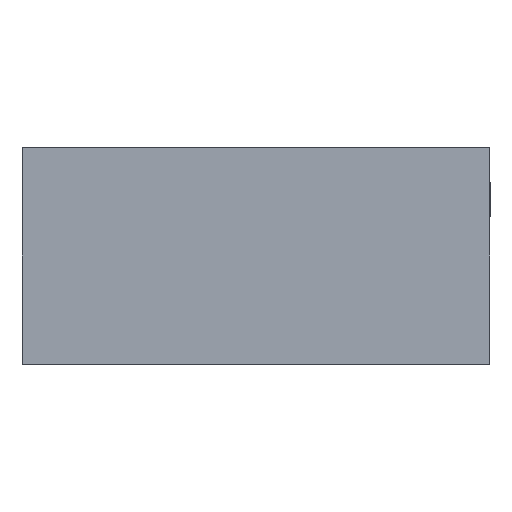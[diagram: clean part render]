
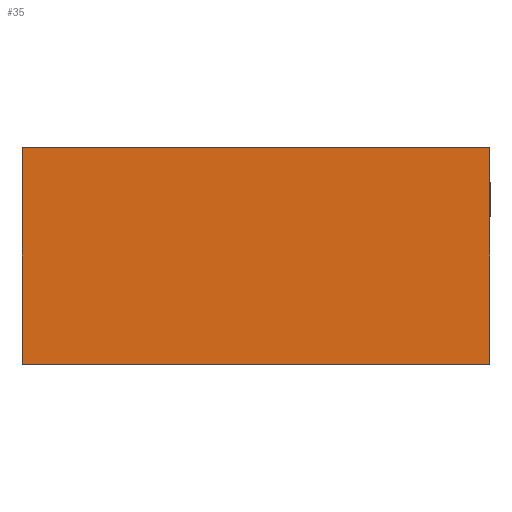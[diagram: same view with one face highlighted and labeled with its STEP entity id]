
A CAD part, left-side view. The second image highlights one B-rep face of the part: STEP entity #35.
In plain terms, the highlighted planar face has unit normal (-1, 0, 0).
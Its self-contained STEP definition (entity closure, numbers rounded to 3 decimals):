
#35 = ADVANCED_FACE('',(#36),#50,.F.);
#36 = FACE_BOUND('',#37,.F.);
#37 = EDGE_LOOP('',(#38,#73,#101,#129));
#38 = ORIENTED_EDGE('',*,*,#39,.F.);
#39 = EDGE_CURVE('',#40,#42,#44,.T.);
#40 = VERTEX_POINT('',#41);
#41 = CARTESIAN_POINT('',(139.,179.2,3.7));
#42 = VERTEX_POINT('',#43);
#43 = CARTESIAN_POINT('',(139.,179.2,13.2));
#44 = SURFACE_CURVE('',#45,(#49,#61),.PCURVE_S1.);
#45 = LINE('',#46,#47);
#46 = CARTESIAN_POINT('',(139.,179.2,3.7));
#47 = VECTOR('',#48,1.);
#48 = DIRECTION('',(0.,0.,1.));
#49 = PCURVE('',#50,#55);
#50 = PLANE('',#51);
#51 = AXIS2_PLACEMENT_3D('',#52,#53,#54);
#52 = CARTESIAN_POINT('',(139.,179.2,3.7));
#53 = DIRECTION('',(1.,0.,-0.));
#54 = DIRECTION('',(0.,0.,1.));
#55 = DEFINITIONAL_REPRESENTATION('',(#56),#60);
#56 = LINE('',#57,#58);
#57 = CARTESIAN_POINT('',(0.,0.));
#58 = VECTOR('',#59,1.);
#59 = DIRECTION('',(1.,0.));
#60 = ( GEOMETRIC_REPRESENTATION_CONTEXT(2) 
PARAMETRIC_REPRESENTATION_CONTEXT() REPRESENTATION_CONTEXT('2D SPACE',''
  ) );
#61 = PCURVE('',#62,#67);
#62 = PLANE('',#63);
#63 = AXIS2_PLACEMENT_3D('',#64,#65,#66);
#64 = CARTESIAN_POINT('',(139.,179.2,3.7));
#65 = DIRECTION('',(-0.,1.,0.));
#66 = DIRECTION('',(0.,0.,1.));
#67 = DEFINITIONAL_REPRESENTATION('',(#68),#72);
#68 = LINE('',#69,#70);
#69 = CARTESIAN_POINT('',(0.,0.));
#70 = VECTOR('',#71,1.);
#71 = DIRECTION('',(1.,0.));
#72 = ( GEOMETRIC_REPRESENTATION_CONTEXT(2) 
PARAMETRIC_REPRESENTATION_CONTEXT() REPRESENTATION_CONTEXT('2D SPACE',''
  ) );
#73 = ORIENTED_EDGE('',*,*,#74,.T.);
#74 = EDGE_CURVE('',#40,#75,#77,.T.);
#75 = VERTEX_POINT('',#76);
#76 = CARTESIAN_POINT('',(139.,183.6,3.7));
#77 = SURFACE_CURVE('',#78,(#82,#89),.PCURVE_S1.);
#78 = LINE('',#79,#80);
#79 = CARTESIAN_POINT('',(139.,179.2,3.7));
#80 = VECTOR('',#81,1.);
#81 = DIRECTION('',(-0.,1.,0.));
#82 = PCURVE('',#50,#83);
#83 = DEFINITIONAL_REPRESENTATION('',(#84),#88);
#84 = LINE('',#85,#86);
#85 = CARTESIAN_POINT('',(0.,0.));
#86 = VECTOR('',#87,1.);
#87 = DIRECTION('',(0.,-1.));
#88 = ( GEOMETRIC_REPRESENTATION_CONTEXT(2) 
PARAMETRIC_REPRESENTATION_CONTEXT() REPRESENTATION_CONTEXT('2D SPACE',''
  ) );
#89 = PCURVE('',#90,#95);
#90 = PLANE('',#91);
#91 = AXIS2_PLACEMENT_3D('',#92,#93,#94);
#92 = CARTESIAN_POINT('',(139.,179.2,3.7));
#93 = DIRECTION('',(0.,0.,1.));
#94 = DIRECTION('',(1.,0.,-0.));
#95 = DEFINITIONAL_REPRESENTATION('',(#96),#100);
#96 = LINE('',#97,#98);
#97 = CARTESIAN_POINT('',(0.,0.));
#98 = VECTOR('',#99,1.);
#99 = DIRECTION('',(0.,1.));
#100 = ( GEOMETRIC_REPRESENTATION_CONTEXT(2) 
PARAMETRIC_REPRESENTATION_CONTEXT() REPRESENTATION_CONTEXT('2D SPACE',''
  ) );
#101 = ORIENTED_EDGE('',*,*,#102,.T.);
#102 = EDGE_CURVE('',#75,#103,#105,.T.);
#103 = VERTEX_POINT('',#104);
#104 = CARTESIAN_POINT('',(139.,183.6,13.2));
#105 = SURFACE_CURVE('',#106,(#110,#117),.PCURVE_S1.);
#106 = LINE('',#107,#108);
#107 = CARTESIAN_POINT('',(139.,183.6,3.7));
#108 = VECTOR('',#109,1.);
#109 = DIRECTION('',(0.,0.,1.));
#110 = PCURVE('',#50,#111);
#111 = DEFINITIONAL_REPRESENTATION('',(#112),#116);
#112 = LINE('',#113,#114);
#113 = CARTESIAN_POINT('',(0.,-4.4));
#114 = VECTOR('',#115,1.);
#115 = DIRECTION('',(1.,0.));
#116 = ( GEOMETRIC_REPRESENTATION_CONTEXT(2) 
PARAMETRIC_REPRESENTATION_CONTEXT() REPRESENTATION_CONTEXT('2D SPACE',''
  ) );
#117 = PCURVE('',#118,#123);
#118 = PLANE('',#119);
#119 = AXIS2_PLACEMENT_3D('',#120,#121,#122);
#120 = CARTESIAN_POINT('',(139.,183.6,3.7));
#121 = DIRECTION('',(-0.,1.,0.));
#122 = DIRECTION('',(0.,0.,1.));
#123 = DEFINITIONAL_REPRESENTATION('',(#124),#128);
#124 = LINE('',#125,#126);
#125 = CARTESIAN_POINT('',(0.,0.));
#126 = VECTOR('',#127,1.);
#127 = DIRECTION('',(1.,0.));
#128 = ( GEOMETRIC_REPRESENTATION_CONTEXT(2) 
PARAMETRIC_REPRESENTATION_CONTEXT() REPRESENTATION_CONTEXT('2D SPACE',''
  ) );
#129 = ORIENTED_EDGE('',*,*,#130,.F.);
#130 = EDGE_CURVE('',#42,#103,#131,.T.);
#131 = SURFACE_CURVE('',#132,(#136,#143),.PCURVE_S1.);
#132 = LINE('',#133,#134);
#133 = CARTESIAN_POINT('',(139.,179.2,13.2));
#134 = VECTOR('',#135,1.);
#135 = DIRECTION('',(-0.,1.,0.));
#136 = PCURVE('',#50,#137);
#137 = DEFINITIONAL_REPRESENTATION('',(#138),#142);
#138 = LINE('',#139,#140);
#139 = CARTESIAN_POINT('',(9.5,0.));
#140 = VECTOR('',#141,1.);
#141 = DIRECTION('',(0.,-1.));
#142 = ( GEOMETRIC_REPRESENTATION_CONTEXT(2) 
PARAMETRIC_REPRESENTATION_CONTEXT() REPRESENTATION_CONTEXT('2D SPACE',''
  ) );
#143 = PCURVE('',#144,#149);
#144 = PLANE('',#145);
#145 = AXIS2_PLACEMENT_3D('',#146,#147,#148);
#146 = CARTESIAN_POINT('',(139.,179.2,13.2));
#147 = DIRECTION('',(0.,0.,1.));
#148 = DIRECTION('',(1.,0.,-0.));
#149 = DEFINITIONAL_REPRESENTATION('',(#150),#154);
#150 = LINE('',#151,#152);
#151 = CARTESIAN_POINT('',(0.,0.));
#152 = VECTOR('',#153,1.);
#153 = DIRECTION('',(0.,1.));
#154 = ( GEOMETRIC_REPRESENTATION_CONTEXT(2) 
PARAMETRIC_REPRESENTATION_CONTEXT() REPRESENTATION_CONTEXT('2D SPACE',''
  ) );
